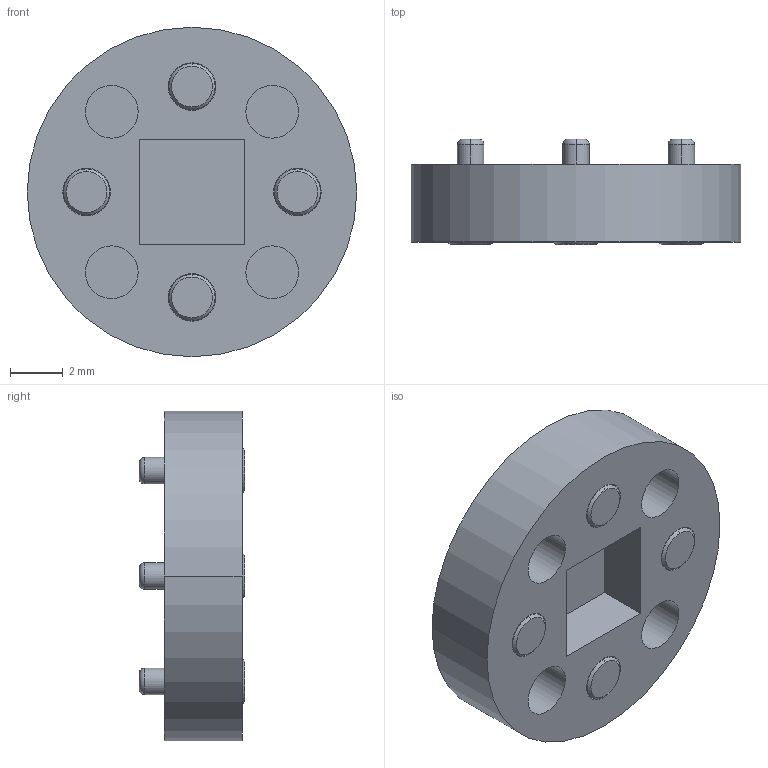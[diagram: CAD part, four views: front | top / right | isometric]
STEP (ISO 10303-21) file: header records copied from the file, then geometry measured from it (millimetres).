
FILE_DESCRIPTION((''),'2;1');
FILE_NAME('ASM0009_ASM','2023-06-07T15:54:59',('USER'),(''),'CREO PARAMETRIC BY PTC INC, 2020154','CREO PARAMETRIC BY PTC INC, 2020154','');
FILE_SCHEMA(('CONFIG_CONTROL_DESIGN'));
Length unit declared in the file: millimetre
Products named in the file (3): H4583-04800A; PRT0018; ASM0009_ASM
Assembly tree (5 placements, depth 2):
  ASM0009_ASM
    H4583-04800A
    PRT0018  x4
Bounding box: 12.5 x 4 x 12.5 mm (x, y, z)
Volume: 308.6 mm3; surface area: 592.6 mm2
Topology: 5 solids, 5 shells, 133 faces, 274 edges, 180 vertices
Faces by surface type: cylinder 66, plane 43, cone 16, torus 8
Entity records: 2020 total; most frequent: CARTESIAN_POINT 386, DIRECTION 368, ORIENTED_EDGE 284, AXIS2_PLACEMENT_3D 158, EDGE_CURVE 142, VERTEX_POINT 96, EDGE_LOOP 86, CIRCLE 86
